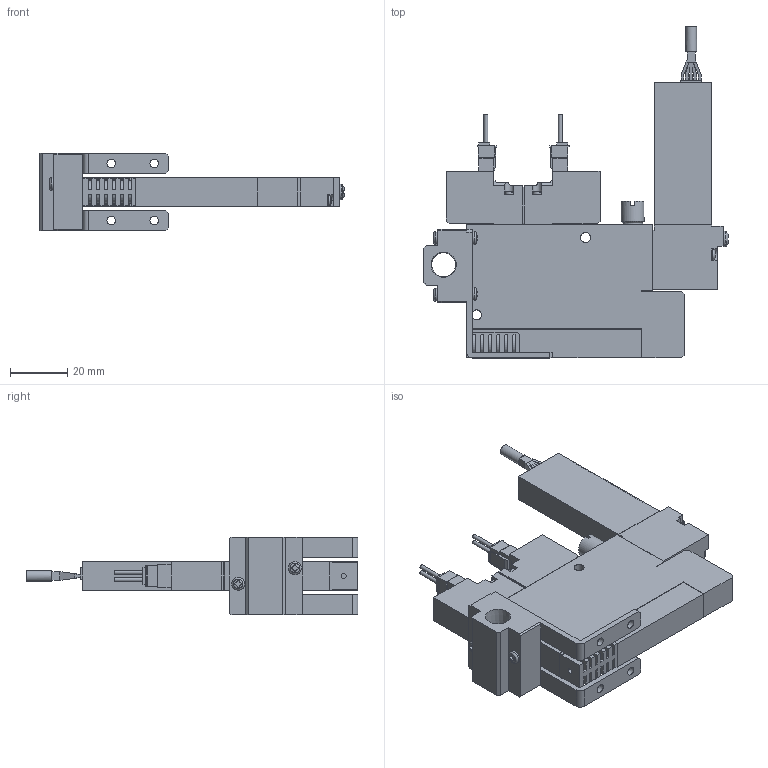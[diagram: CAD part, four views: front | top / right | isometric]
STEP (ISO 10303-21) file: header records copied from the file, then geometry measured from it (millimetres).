
FILE_DESCRIPTION(('STEP AP203'),'1');
FILE_NAME('5SS101_3D.stp','2024-09-04T06:25:16',(' '),(' '),'Spatial InterOp 3D',' ',' ');
FILE_SCHEMA(('CONFIG_CONTROL_DESIGN'));
Length unit declared in the file: millimetre
Products named in the file (5): BSC1M※※V9※5SS101; Solenoid valve S; Pressure Sensor V9; Unit-S; BaseMS10R
Assembly tree (4 placements, depth 2):
  BSC1M※※V9※5SS101
    Solenoid valve S
    Pressure Sensor V9
    Unit-S
    BaseMS10R
Bounding box: 106.35 x 115.8 x 27 mm (x, y, z)
Volume: 63683.9 mm3; surface area: 26690.9 mm2
Topology: 4 solids, 4 shells, 603 faces, 1652 edges, 1090 vertices
Faces by surface type: plane 439, cylinder 139, sphere 9, torus 9, cone 7
Full cylindrical faces by diameter (mm): 1.4 x4, 1.8 x1, 2.5 x2, 3 x8, 3.5 x8, 3.8 x1, 4 x1, 4.134 x2, 4.5 x6, 5.5 x2, 7 x1, 7.7 x1, 8 x1, 8.422 x1
Entity records: 19382 total; most frequent: CARTESIAN_POINT 4003, ORIENTED_EDGE 3132, DIRECTION 3030, EDGE_CURVE 1566, LINE 1196, VECTOR 1196, VERTEX_POINT 1068, AXIS2_PLACEMENT_3D 917
